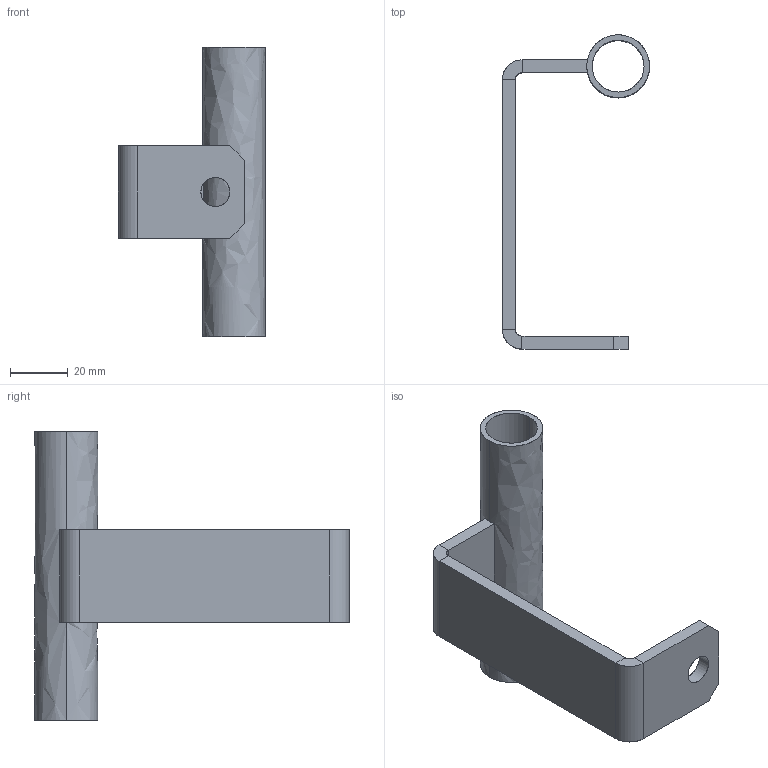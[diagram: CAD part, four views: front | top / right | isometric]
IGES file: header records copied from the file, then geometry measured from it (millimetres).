
Start section: SolidWorks IGES file using analytic representation for surfaces
Global section: file name: \\3d-ls520\Public\DATA\標準部品\共通部品\ｶﾞｲﾄﾞ\ガイドHP用\B型.IGS; native system: SolidWorks 2021; preprocessor: SolidWorks 2021; author: 0967; date: 240201.105337; units: millimetre
Bounding box: 50.85 x 108.6 x 100 mm (x, y, z)
Surface area: 24262.7 mm2 (no closed solid volume)
Topology: 0 solids, 0 shells, 31 faces, 382 edges, 382 vertices
Faces by surface type: bspline 21, revolution 10
